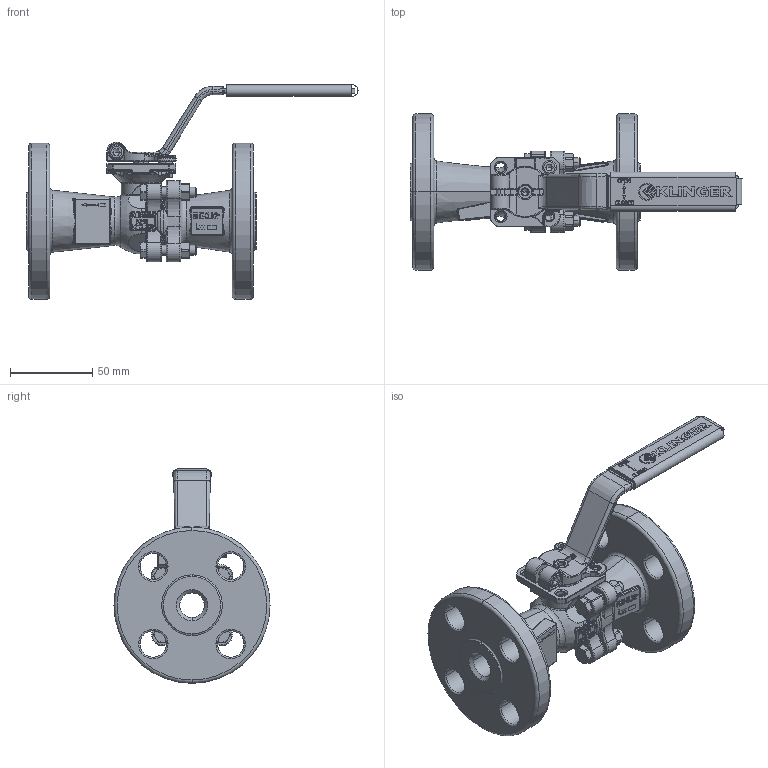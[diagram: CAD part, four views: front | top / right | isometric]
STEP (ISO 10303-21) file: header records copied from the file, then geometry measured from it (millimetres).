
FILE_DESCRIPTION((''),'2;1');
FILE_NAME('KHEFS-12VFS-12C300PKK','2015-08-11T',('mahrhauserh'),('RAND'),'PRO/ENGINEER BY PARAMETRIC TECHNOLOGY CORPORATION, 2013410','PRO/ENGINEER BY PARAMETRIC TECHNOLOGY CORPORATION, 2013410','');
FILE_SCHEMA(('CONFIG_CONTROL_DESIGN'));
Products named in the file (1): KHEFS-12VFS-12C300PKK
Bounding box: 202 x 95 x 130.55 mm (x, y, z)
Volume: 300365.6 mm3; surface area: 89903.5 mm2
Topology: 1 solids, 2 shells, 3267 faces, 8378 edges, 5228 vertices
Faces by surface type: plane 1824, cylinder 512, bspline 360, torus 317, cone 202, sphere 52
Entity records: 131785 total; most frequent: CARTESIAN_POINT 54341, ORIENTED_EDGE 16728, DIRECTION 15300, EDGE_CURVE 8364, VECTOR 5320, LINE 5320, VERTEX_POINT 5228, AXIS2_PLACEMENT_3D 4990
